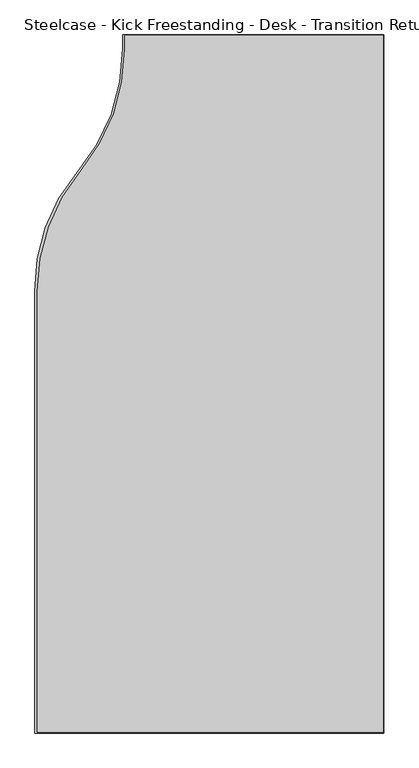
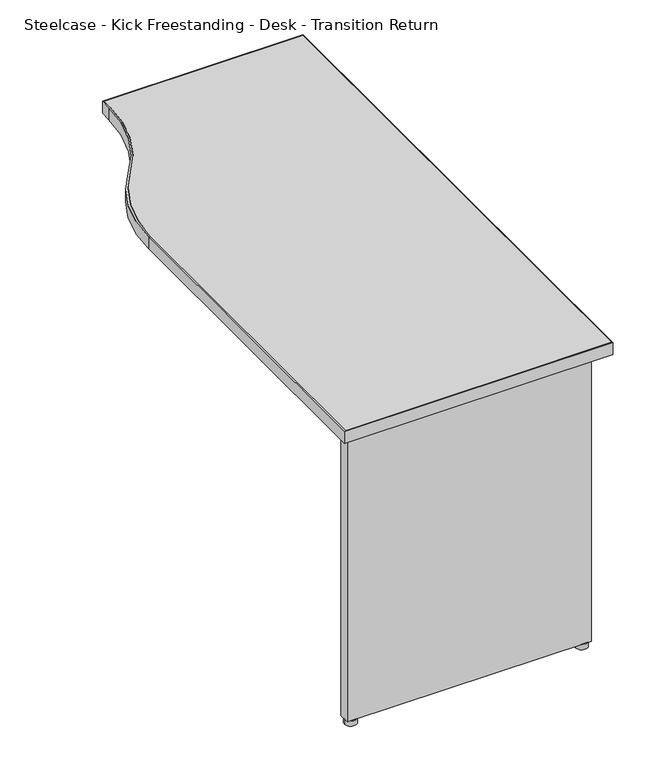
"""IFC4 building model written with IfcOpenShell, lengths in millimetres: furniture geometry, Steelcase - Kick Freestanding - Desk - Transition Return : 18D x 48W - Right."""

from ifc_helpers import new_model, si_unit, point, frame, frame_2d, origin, origin_with_axes, place, context, project, spatial, polyline, circle_curve, trimmed, segment, composite_curve, outline, extrude, source, transform, mapped, element, save


def steelcase_kick_freestanding_desk_transition_return_d66c694c(model_context):
    return source(origin(), model_context, "Body", "SweptSolid", [
        extrude(outline(composite_curve([segment(polyline([(1707.9294594, -546.8145152), (2163.8594425, -546.8145152), (2163.8594425, -1766.0145152), (1554.2594425, -1766.0145152), (1554.2594425, -994.1085152)]), True, "CONTINUOUS"), segment(trimmed(circle_curve(frame_2d((1864.0239413, -987.7058619)), 309.8306613), [point((1554.2594425, -994.1085152))], [point((1628.457587, -786.4509703))], False, "CARTESIAN"), True, "CONTINUOUS"), segment(trimmed(circle_curve(frame_2d((1376.3728371, -571.0836731)), 331.5566223), [point((1628.457587, -786.4509703))], [point((1707.9294594, -571.0836731))], True, "CARTESIAN"), True, "CONTINUOUS"), segment(polyline([(1707.9294594, -571.0836731), (1707.9294594, -546.8145152)]), True, "CONTINUOUS")], self_intersect=False), holes=[composite_curve([segment(polyline([(1710.9012257, -547.8051152), (1710.9012257, -572.1320079)]), True, "CONTINUOUS"), segment(trimmed(circle_curve(frame_2d((1386.0725345, -574.5942763)), 324.8380233), [point((1710.9012257, -572.1320079))], [point((1635.1600947, -783.1011797))], False, "CARTESIAN"), True, "CONTINUOUS"), segment(trimmed(circle_curve(frame_2d((1887.2347336, -994.1085152)), 328.7335079), [point((1635.1600947, -783.1011797))], [point((1558.5012257, -994.1085152))], True, "CARTESIAN"), True, "CONTINUOUS"), segment(polyline([(1558.5012257, -994.1085152), (1558.5012257, -1764.2619332), (2162.8688425, -1764.2619332), (2162.8688425, -547.8051152), (1710.9012257, -547.8051152)]), True, "CONTINUOUS")], self_intersect=False)]), frame((0.0, 0.0, 694.944), z_axis=(0.0, 0.0, 1.0), x_axis=(1.0, 0.0, 0.0)), (0.0, 0.0, 1.0), 28.956),
        extrude(outline(composite_curve([segment(polyline([(2162.8688425, -547.8051152), (2162.8688425, -1764.2619332), (1558.5012257, -1764.2619332), (1558.5012257, -994.1085152)]), True, "CONTINUOUS"), segment(trimmed(circle_curve(frame_2d((1887.2347336, -994.1085152)), 328.7335079), [point((1558.5012257, -994.1085152))], [point((1635.1600947, -783.1011797))], False, "CARTESIAN"), True, "CONTINUOUS"), segment(trimmed(circle_curve(frame_2d((1386.0725345, -574.5942763)), 324.8380233), [point((1635.1600947, -783.1011797))], [point((1710.9012257, -572.1320079))], True, "CARTESIAN"), True, "CONTINUOUS"), segment(polyline([(1710.9012257, -572.1320079), (1710.9012257, -547.8051152), (2162.8688425, -547.8051152)]), True, "CONTINUOUS")], self_intersect=False)), frame((0.0, 0.0, 694.944), z_axis=(0.0, 0.0, 1.0), x_axis=(1.0, 0.0, 0.0)), (0.0, 0.0, 1.0), 28.956),
        extrude(outline(composite_curve([segment(trimmed(circle_curve(frame_2d((2107.4714425, -1740.7669041)), 13.97), [point((2121.4414425, -1740.7669041))], [point((2093.5014425, -1740.7669041))], False, "CARTESIAN"), True, "CONTINUOUS"), segment(trimmed(circle_curve(frame_2d((2107.4714425, -1740.7669041)), 13.97), [point((2093.5014425, -1740.7669041))], [point((2121.4414425, -1740.7669041))], False, "CARTESIAN"), True, "CONTINUOUS")], self_intersect=False)), origin_with_axes(), (0.0, 0.0, 1.0), 12.7),
        extrude(outline(composite_curve([segment(trimmed(circle_curve(frame_2d((1582.4534425, -1740.7669041)), 13.97), [point((1596.4234425, -1740.7669041))], [point((1568.4834425, -1740.7669041))], False, "CARTESIAN"), True, "CONTINUOUS"), segment(trimmed(circle_curve(frame_2d((1582.4534425, -1740.7669041)), 13.97), [point((1568.4834425, -1740.7669041))], [point((1596.4234425, -1740.7669041))], False, "CARTESIAN"), True, "CONTINUOUS")], self_intersect=False)), origin_with_axes(), (0.0, 0.0, 1.0), 12.7),
        extrude(outline(polyline([(2122.7114425, -1728.0669041), (2122.7114425, -1752.5525152), (1568.2294473, -1752.5525152), (1568.2294473, -1728.0669041), (1691.2670317, -1728.0669041), (1691.2670317, -1750.4951136), (1790.9874347, -1750.4951136), (1790.9874347, -1728.0669041), (1899.7248382, -1728.0669041), (1899.7248382, -1750.4951136), (1999.4452412, -1750.4951136), (1999.4452412, -1728.0669041), (2122.7114425, -1728.0669041)])), frame((0.0, 0.0, 12.7), z_axis=(0.0, 0.0, 1.0), x_axis=(1.0, 0.0, 0.0)), (0.0, 0.0, 1.0), 682.244),
    ])


if __name__ == "__main__":
    model = new_model("IFC4")
    model_context = context("Model", 3, world=origin())
    ifc_project = project(units=[si_unit("LENGTHUNIT", "METRE", prefix="MILLI")], contexts=[model_context])
    site = spatial("IfcSite", under=ifc_project)
    building = spatial("IfcBuilding", under=site)
    placement = place(None, origin())
    steelcase_kick_freestanding_desk_transition_return_shape = steelcase_kick_freestanding_desk_transition_return_d66c694c(model_context)
    element("IfcFurniture", 1, ObjectType="Steelcase - Kick Freestanding - Desk - Transition Return : 18D x 48W - Right", at=placement, inside=building, context=model_context, shape_type="MappedRepresentation", body=[
        mapped(steelcase_kick_freestanding_desk_transition_return_shape, transform((0.0, 0.0, 0.0), x_axis=(1.0, 0.0, 0.0), y_axis=(0.0, 1.0, 0.0), z_axis=(0.0, 0.0, 1.0))),
    ])
    save(model, "model.ifc")
